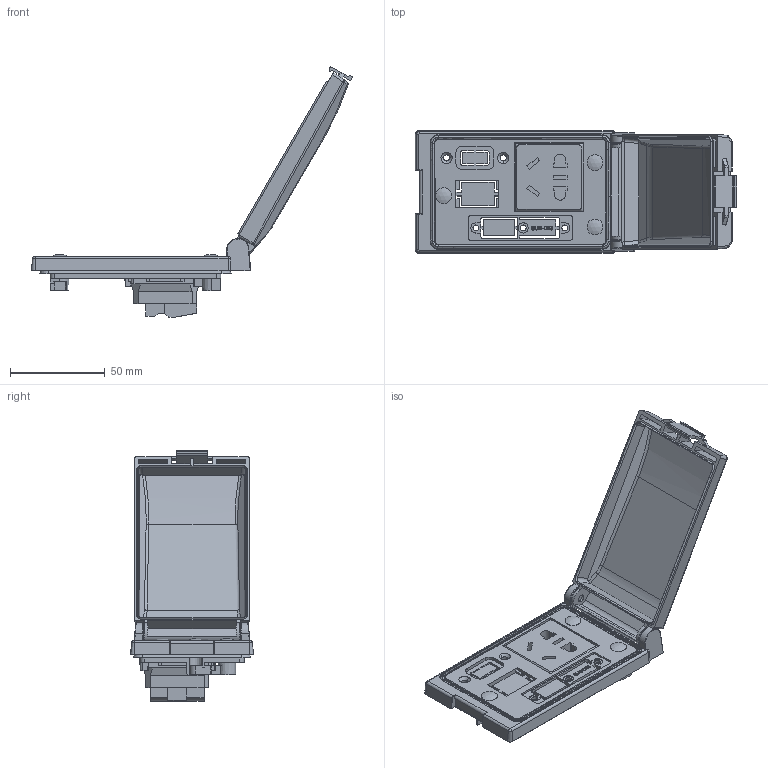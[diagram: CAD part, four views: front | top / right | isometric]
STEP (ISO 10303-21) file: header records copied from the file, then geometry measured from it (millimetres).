
FILE_DESCRIPTION (( 'STEP AP203' ), '1' );
FILE_NAME ('9100000.STEP', '2020-11-24T09:01:16', ( '' ), ( '' ), 'SwSTEP 2.0', 'SolidWorks 2016', '' );
FILE_SCHEMA (( 'CONFIG_CONTROL_DESIGN' ));
Length unit declared in the file: millimetre
Products named in the file (1): 9100000
Bounding box: 169.88 x 65 x 132.28 mm (x, y, z)
Volume: 80769.4 mm3; surface area: 59561.2 mm2
Topology: 7 solids, 7 shells, 1312 faces, 3522 edges, 2243 vertices
Faces by surface type: plane 607, cylinder 343, bspline 248, cone 69, torus 29, sphere 16
Entity records: 53851 total; most frequent: CARTESIAN_POINT 23641, ORIENTED_EDGE 6990, DIRECTION 5095, EDGE_CURVE 3495, VERTEX_POINT 2237, LINE 1969, VECTOR 1969, AXIS2_PLACEMENT_3D 1563
